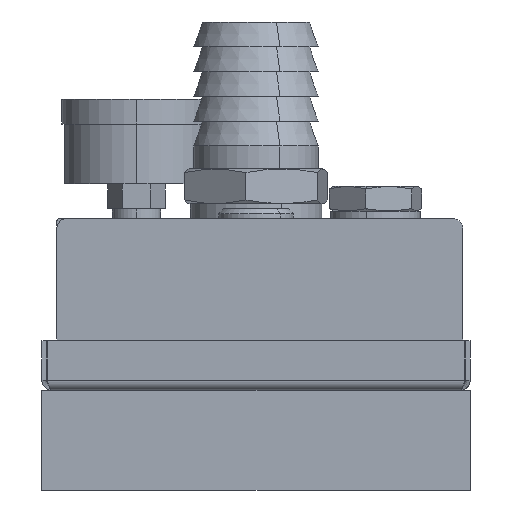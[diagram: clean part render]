
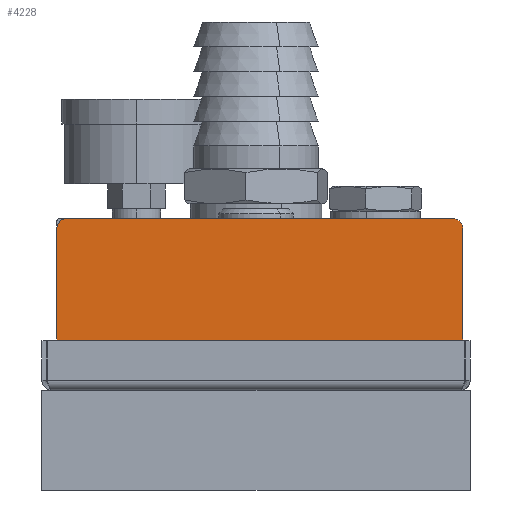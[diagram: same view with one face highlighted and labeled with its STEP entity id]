
A CAD part, front view. The second image highlights one B-rep face of the part: STEP entity #4228.
In plain terms, the highlighted planar face has unit normal (0, -1, 0).
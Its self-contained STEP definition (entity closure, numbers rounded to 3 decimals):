
#1114 = LINE ( 'NONE', #4685, #1192 ) ;
#1188 = CIRCLE ( 'NONE', #6654, 2. ) ;
#1192 = VECTOR ( 'NONE', #4683, 1000. ) ;
#1214 = VECTOR ( 'NONE', #4670, 1000. ) ;
#1217 = LINE ( 'NONE', #4671, #1214 ) ;
#1709 = CARTESIAN_POINT ( 'NONE',  ( 93.866, -176.63, 37.694 ) ) ;
#1728 = CARTESIAN_POINT ( 'NONE',  ( 14.366, -176.63, 9.694 ) ) ;
#1744 = CARTESIAN_POINT ( 'NONE',  ( 95.866, -176.63, 9.694 ) ) ;
#1754 = CARTESIAN_POINT ( 'NONE',  ( 16.366, -176.63, 7.694 ) ) ;
#1762 = CARTESIAN_POINT ( 'NONE',  ( 93.866, -176.63, 7.694 ) ) ;
#2013 = CARTESIAN_POINT ( 'NONE',  ( 95.866, -176.63, 35.694 ) ) ;
#2090 = VECTOR ( 'NONE', #4707, 1000. ) ;
#2233 = LINE ( 'NONE', #4709, #2090 ) ;
#2482 = CIRCLE ( 'NONE', #6043, 2. ) ;
#2532 = CIRCLE ( 'NONE', #6176, 2. ) ;
#2594 = LINE ( 'NONE', #5239, #2627 ) ;
#2627 = VECTOR ( 'NONE', #5244, 1000. ) ;
#2703 = CIRCLE ( 'NONE', #6755, 2. ) ;
#3159 = CARTESIAN_POINT ( 'NONE',  ( 16.366, -176.63, 37.694 ) ) ;
#3189 = CARTESIAN_POINT ( 'NONE',  ( 14.366, -176.63, 35.694 ) ) ;
#3487 = DIRECTION ( 'NONE',  ( -1., 0., 0. ) ) ;
#3513 = DIRECTION ( 'NONE',  ( 0., -1., 0. ) ) ;
#3525 = CARTESIAN_POINT ( 'NONE',  ( 16.366, -176.63, 9.694 ) ) ;
#3551 = PLANE ( 'NONE',  #6078 ) ;
#4228 = ADVANCED_FACE ( 'NONE', ( #12705 ), #3551, .T. ) ;
#4606 = DIRECTION ( 'NONE',  ( 1., 0., 0. ) ) ;
#4607 = DIRECTION ( 'NONE',  ( 0., 1., 0. ) ) ;
#4644 = CARTESIAN_POINT ( 'NONE',  ( 93.866, -176.63, 35.694 ) ) ;
#4670 = DIRECTION ( 'NONE',  ( 1., 0., 0. ) ) ;
#4671 = CARTESIAN_POINT ( 'NONE',  ( 16.366, -176.63, 37.694 ) ) ;
#4683 = DIRECTION ( 'NONE',  ( 0., 0., -1. ) ) ;
#4685 = CARTESIAN_POINT ( 'NONE',  ( 95.866, -176.63, 9.694 ) ) ;
#4707 = DIRECTION ( 'NONE',  ( 0., 0., 1. ) ) ;
#4709 = CARTESIAN_POINT ( 'NONE',  ( 14.366, -176.63, 9.694 ) ) ;
#4790 = DIRECTION ( 'NONE',  ( -1., 0., 0. ) ) ;
#4792 = DIRECTION ( 'NONE',  ( 0., 1., 0. ) ) ;
#4793 = CARTESIAN_POINT ( 'NONE',  ( 16.366, -176.63, 35.694 ) ) ;
#4928 = DIRECTION ( 'NONE',  ( -1., 0., 0. ) ) ;
#4929 = DIRECTION ( 'NONE',  ( 0., 1., 0. ) ) ;
#4930 = CARTESIAN_POINT ( 'NONE',  ( 16.366, -176.63, 9.694 ) ) ;
#5239 = CARTESIAN_POINT ( 'NONE',  ( 16.366, -176.63, 7.694 ) ) ;
#5244 = DIRECTION ( 'NONE',  ( -1., 0., 0. ) ) ;
#5245 = DIRECTION ( 'NONE',  ( 1., 0., 0. ) ) ;
#5246 = DIRECTION ( 'NONE',  ( 0., 1., 0. ) ) ;
#5247 = CARTESIAN_POINT ( 'NONE',  ( 93.866, -176.63, 9.694 ) ) ;
#6043 = AXIS2_PLACEMENT_3D ( 'NONE', #5247, #5246, #5245 ) ;
#6078 = AXIS2_PLACEMENT_3D ( 'NONE', #3525, #3513, #3487 ) ;
#6176 = AXIS2_PLACEMENT_3D ( 'NONE', #4930, #4929, #4928 ) ;
#6654 = AXIS2_PLACEMENT_3D ( 'NONE', #4644, #4607, #4606 ) ;
#6755 = AXIS2_PLACEMENT_3D ( 'NONE', #4793, #4792, #4790 ) ;
#7140 = EDGE_CURVE ( 'NONE', #11512, #11453, #2482, .T. ) ;
#7143 = EDGE_CURVE ( 'NONE', #11453, #11473, #2594, .T. ) ;
#7228 = EDGE_CURVE ( 'NONE', #11473, #11533, #2532, .T. ) ;
#7274 = EDGE_CURVE ( 'NONE', #10825, #10998, #2703, .T. ) ;
#7296 = EDGE_CURVE ( 'NONE', #11533, #10825, #2233, .T. ) ;
#7301 = EDGE_CURVE ( 'NONE', #11791, #11512, #1114, .T. ) ;
#7307 = EDGE_CURVE ( 'NONE', #10998, #11581, #1217, .T. ) ;
#7323 = EDGE_CURVE ( 'NONE', #11581, #11791, #1188, .T. ) ;
#10825 = VERTEX_POINT ( 'NONE', #3189 ) ;
#10861 = ORIENTED_EDGE ( 'NONE', *, *, #7323, .F. ) ;
#10998 = VERTEX_POINT ( 'NONE', #3159 ) ;
#11005 = ORIENTED_EDGE ( 'NONE', *, *, #7143, .F. ) ;
#11100 = ORIENTED_EDGE ( 'NONE', *, *, #7296, .F. ) ;
#11124 = EDGE_LOOP ( 'NONE', ( #11695, #11005, #11657, #11822, #10861, #11786, #11588, #11100 ) ) ;
#11453 = VERTEX_POINT ( 'NONE', #1762 ) ;
#11473 = VERTEX_POINT ( 'NONE', #1754 ) ;
#11512 = VERTEX_POINT ( 'NONE', #1744 ) ;
#11533 = VERTEX_POINT ( 'NONE', #1728 ) ;
#11581 = VERTEX_POINT ( 'NONE', #1709 ) ;
#11588 = ORIENTED_EDGE ( 'NONE', *, *, #7274, .F. ) ;
#11657 = ORIENTED_EDGE ( 'NONE', *, *, #7140, .F. ) ;
#11695 = ORIENTED_EDGE ( 'NONE', *, *, #7228, .F. ) ;
#11786 = ORIENTED_EDGE ( 'NONE', *, *, #7307, .F. ) ;
#11791 = VERTEX_POINT ( 'NONE', #2013 ) ;
#11822 = ORIENTED_EDGE ( 'NONE', *, *, #7301, .F. ) ;
#12705 = FACE_OUTER_BOUND ( 'NONE', #11124, .T. ) ;
